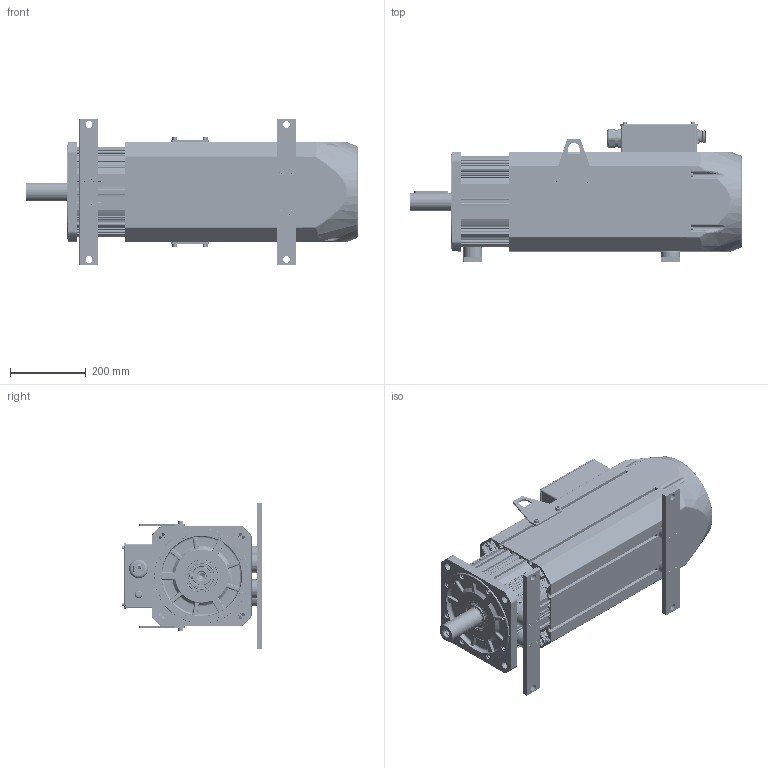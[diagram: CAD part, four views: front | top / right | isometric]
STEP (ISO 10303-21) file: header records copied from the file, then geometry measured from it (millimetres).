
FILE_DESCRIPTION((''),'2;1');
FILE_NAME('IMS20B-26M74D20C-4-R7F-A_ASM','2025-08-25T09:40:06',('0108698'),(''),'CREO PARAMETRIC BY PTC INC, 2019080','CREO PARAMETRIC BY PTC INC, 2019080','');
FILE_SCHEMA(('CONFIG_CONTROL_DESIGN'));
Products named in the file (72): 263T360_A; 631000; 80100320_AF0; 2630002_ASM; 2630003; 2630004; M6X160001; 50058-00152_AF0; 2630001_ASM; 263559_A; 2630005_ASM; 80100323_AF0; 263000_ASM; 50057-00008; 50036-00052; 50060-00059; 2630007_ASM; 2630009; 15000; 2630008_ASM; 50034-00098; _0001; 0001; 50051-00002; PDLD_4X12; 2630011; 00; M8X3000; 800; 0003; 0004; L990001; 2630010_ASM; 0005; ISO7045-M4X6-4_8; 0006; ISO7045-M4X8-4_8; WXJXDZ_40200-01002; 0007; _0002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
Assembly tree (142 placements, depth 4):
  IMS20B-26M74D20C-4-R7F-A_ASM
    2630001_ASM
      263T360_A
      631000
      2630002_ASM
        80100320_AF0
      2630003
      2630004
      M6X160001  x6
      50058-00152_AF0
    2630005_ASM
      263559_A
    263000_ASM
      80100323_AF0
    2630007_ASM
      50057-00008
      50036-00052
      50060-00059  x4
    2630008_ASM
      2630009
      15000
    50034-00098
    12116-00061_ASM
      _0001
      0001
      50051-00002
      PDLD_4X12  x4
      2630010_ASM
        2630011
        00  x3
        M8X3000  x6
        800  x6
        800  x6
        0003  x4
        0004
        L990001
      0005
      ISO7045-M4X6-4_8  x2
      0006
      ISO7045-M4X8-4_8
      WXJXDZ_40200-01002  x4
      0007
      _0002
      50060-00134  x4
      0008
      PG11
      PG36
    50034-00031  x2
    50034-00026  x2
    50058-00151_AF0
    50060-00071  x4
    50058-00152_AF1
    50060-00135  x4
    50058-00150
    50066-00059
    50060-00076  x4
    12118-00004_ASM
      80310919
      50034-00012
      80310916  x2
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Bounding box: 875 x 371 x 384 mm (x, y, z)
Volume: 17634640.4 mm3; surface area: 4301679.3 mm2
Topology: 148 solids, 260 shells, 7698 faces, 20084 edges, 12999 vertices
Faces by surface type: plane 3557, cylinder 2778, cone 505, bspline 481, torus 329, revolution 24, sphere 24
Entity records: 225968 total; most frequent: CARTESIAN_POINT 68065, DIRECTION 33371, ORIENTED_EDGE 32608, EDGE_CURVE 16436, AXIS2_PLACEMENT_3D 12081, VERTEX_POINT 10685, VECTOR 9185, LINE 9185
